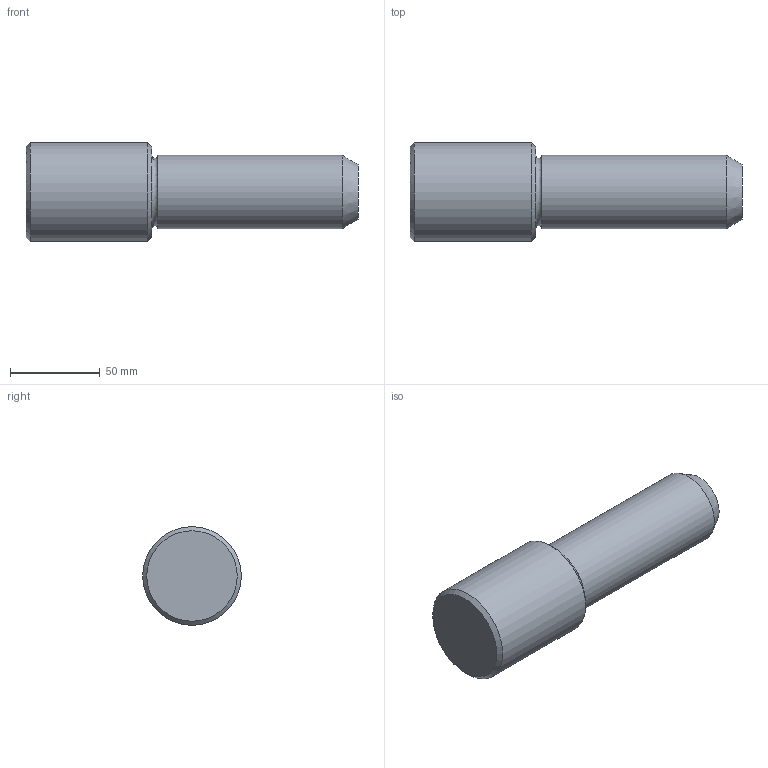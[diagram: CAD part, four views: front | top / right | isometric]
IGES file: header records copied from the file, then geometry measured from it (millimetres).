
Global section: file name: C341185.ipt; native system: Autodesk Inventor 2021; preprocessor: unknown; author: SM; date: 20211221.121155; units: millimetre
Bounding box: 185 x 55 x 55 mm (x, y, z)
Volume: 313952.4 mm3; surface area: 30831.4 mm2
Topology: 1 solids, 1 shells, 9 faces, 16 edges, 10 vertices
Faces by surface type: cone 3, plane 3, cylinder 2, revolution 1
Full cylindrical faces by diameter (mm): 41 x1, 55 x1
